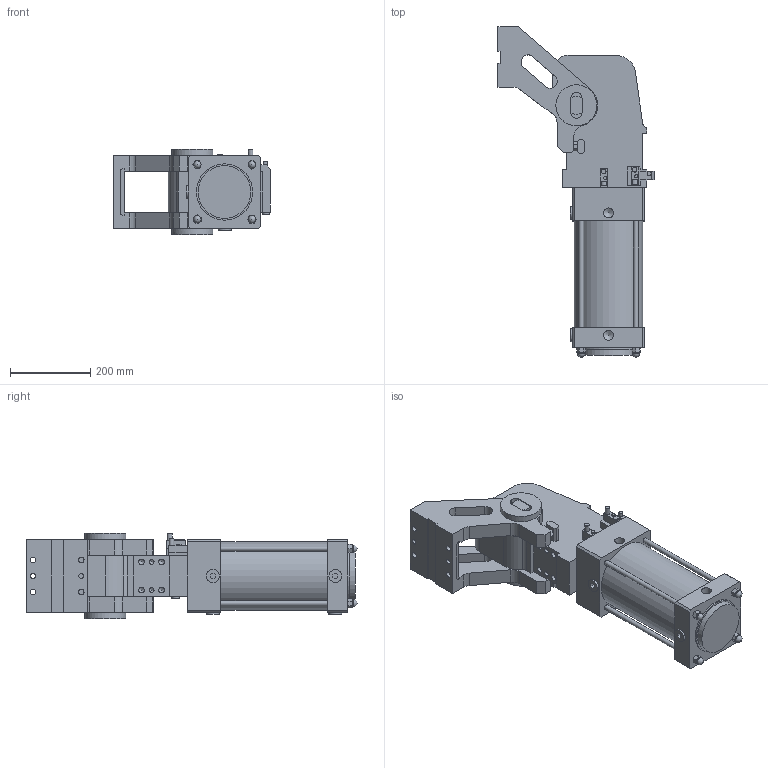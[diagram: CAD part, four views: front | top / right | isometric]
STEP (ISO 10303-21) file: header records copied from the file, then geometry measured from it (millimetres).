
FILE_DESCRIPTION(/* description */ (''),/* implementation_level */ '2;1');
FILE_NAME(/* name */ 'S:\Tom\INVENTOR FILES\AUTOMOTIVE\VEP\DUMP UNITS\C05.P015 RFM.2-RF.2\C05.P015 RFM.2-RF.2\RFM160\SATs\XPUZ160.2-129-3-ESL-P-G-X.stp',/* time_stamp */ '2018-07-29T18:08:30+01:00',/* author */ ('carl'),/* organization */ (''),/* preprocessor_version */ 'ST-DEVELOPER v16.13',/* originating_system */ 'Autodesk Inventor 2018',/* authorisation */ '');
FILE_SCHEMA (('AUTOMOTIVE_DESIGN { 1 0 10303 214 3 1 1 }'));
Length unit declared in the file: millimetre
Products named in the file (11): XPUZ160.2-129-3-ESL-P-G-X_TOP; XPUZ160; XPUZ160_1; XPUZ160_2; XPUZ160_3; XPUZ160_4; XPUZ160_5; XPUZ160_6; XPUZ160_7; XPUZ160_8; XPUZ160_9
Assembly tree (10 placements, depth 2):
  XPUZ160.2-129-3-ESL-P-G-X_TOP
    XPUZ160
    XPUZ160_1
    XPUZ160_2
    XPUZ160_3
    XPUZ160_4
    XPUZ160_5
    XPUZ160_6
    XPUZ160_7
    XPUZ160_8
    XPUZ160_9
Bounding box: 388 x 821 x 212 mm (x, y, z)
Volume: 20503385.5 mm3; surface area: 979567.7 mm2
Topology: 10 solids, 10 shells, 392 faces, 966 edges, 635 vertices
Faces by surface type: plane 268, cylinder 102, cone 18, sphere 4
Full cylindrical faces by diameter (mm): 5.5 x2, 8.5 x2, 10 x3, 10.2 x1, 11.8 x2, 12 x12, 13 x1, 14 x12, 18 x5, 24.5 x6, 26 x4, 32 x4, 45 x1, 50.5 x1, 60 x2, 102 x2, 131 x1, 140 x1, 170 x1
Entity records: 11281 total; most frequent: DIRECTION 1888, CARTESIAN_POINT 1871, ORIENTED_EDGE 1704, EDGE_CURVE 852, LINE 642, VECTOR 642, AXIS2_PLACEMENT_3D 623, VERTEX_POINT 606
